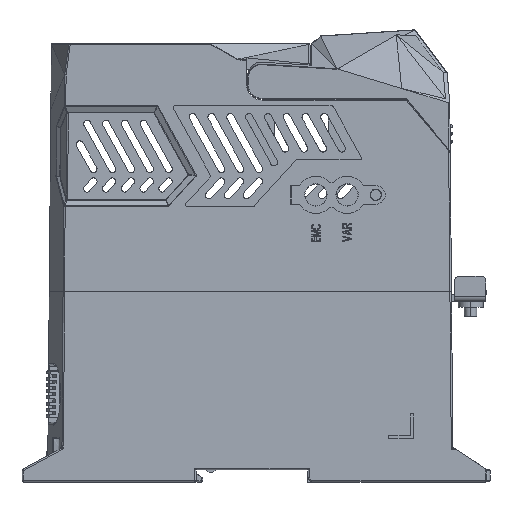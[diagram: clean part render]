
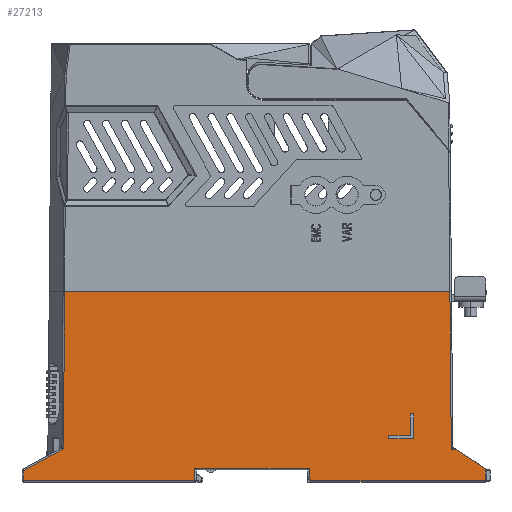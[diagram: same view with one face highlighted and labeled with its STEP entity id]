
A CAD part, left-side view. The second image highlights one B-rep face of the part: STEP entity #27213.
In plain terms, the highlighted planar face has unit normal (1, 0, -0.009).
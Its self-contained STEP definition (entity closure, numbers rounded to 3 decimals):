
#21707=VECTOR('Line Direction',#21706,1.) ;
#27038=VECTOR('Line Direction',#27037,1.) ;
#27045=VECTOR('Line Direction',#27044,1.) ;
#27052=VECTOR('Line Direction',#27051,1.) ;
#27059=VECTOR('Line Direction',#27058,1.) ;
#27066=VECTOR('Line Direction',#27065,1.) ;
#27073=VECTOR('Line Direction',#27072,1.) ;
#27080=VECTOR('Line Direction',#27079,1.) ;
#27087=VECTOR('Line Direction',#27086,1.) ;
#27094=VECTOR('Line Direction',#27093,1.) ;
#27101=VECTOR('Line Direction',#27100,1.) ;
#27108=VECTOR('Line Direction',#27107,1.) ;
#27115=VECTOR('Line Direction',#27114,1.) ;
#27135=VECTOR('Line Direction',#27134,1.) ;
#27142=VECTOR('Line Direction',#27141,1.) ;
#27165=VECTOR('Line Direction',#27164,1.) ;
#27174=VECTOR('Line Direction',#27173,1.) ;
#27181=VECTOR('Line Direction',#27180,1.) ;
#27188=VECTOR('Line Direction',#27187,1.) ;
#27195=VECTOR('Line Direction',#27194,1.) ;
#27202=VECTOR('Line Direction',#27201,1.) ;
#21706=DIRECTION('Vector Direction',(0.,1.,0.)) ;
#27031=DIRECTION('Axis2P3D Direction',(-1.,0.,0.009)) ;
#27032=DIRECTION('Axis2P3D XDirection',(0.,-1.,0.)) ;
#27037=DIRECTION('Vector Direction',(-0.009,-0.009,-1.)) ;
#27044=DIRECTION('Vector Direction',(0.,-1.,0.)) ;
#27051=DIRECTION('Vector Direction',(0.005,0.835,0.55)) ;
#27058=DIRECTION('Vector Direction',(0.009,-0.009,1.)) ;
#27065=DIRECTION('Vector Direction',(0.,-1.,0.)) ;
#27072=DIRECTION('Vector Direction',(-0.006,-0.707,-0.707)) ;
#27079=DIRECTION('Vector Direction',(-0.009,0.,-1.)) ;
#27086=DIRECTION('Vector Direction',(0.,-1.,0.)) ;
#27093=DIRECTION('Vector Direction',(0.009,0.,1.)) ;
#27100=DIRECTION('Vector Direction',(0.,1.,0.)) ;
#27107=DIRECTION('Vector Direction',(0.009,0.,1.)) ;
#27114=DIRECTION('Vector Direction',(0.004,-0.879,0.477)) ;
#27134=DIRECTION('Vector Direction',(0.009,-0.007,1.)) ;
#27141=DIRECTION('Vector Direction',(-0.009,0.007,-1.)) ;
#27164=DIRECTION('Vector Direction',(0.,-1.,0.)) ;
#27173=DIRECTION('Vector Direction',(0.009,0.,1.)) ;
#27180=DIRECTION('Vector Direction',(0.,-1.,0.)) ;
#27187=DIRECTION('Vector Direction',(0.009,0.,1.)) ;
#27194=DIRECTION('Vector Direction',(0.,1.,0.)) ;
#27201=DIRECTION('Vector Direction',(-0.009,0.,-1.)) ;
#21702=CARTESIAN_POINT('Vertex',(-129.88,32.243,-105.477)) ;
#21705=CARTESIAN_POINT('Line Origine',(-129.88,94.005,-105.477)) ;
#21709=CARTESIAN_POINT('Vertex',(-129.88,155.767,-105.477)) ;
#27030=CARTESIAN_POINT('Axis2P3D Location',(-130.365,164.946,-160.977)) ;
#27036=CARTESIAN_POINT('Line Origine',(-130.101,32.022,-130.727)) ;
#27040=CARTESIAN_POINT('Vertex',(-130.321,31.802,-155.978)) ;
#27043=CARTESIAN_POINT('Line Origine',(-130.321,31.046,-155.978)) ;
#27047=CARTESIAN_POINT('Vertex',(-130.321,30.289,-155.978)) ;
#27050=CARTESIAN_POINT('Line Origine',(-130.348,25.58,-159.075)) ;
#27054=CARTESIAN_POINT('Vertex',(-130.375,20.87,-162.173)) ;
#27057=CARTESIAN_POINT('Line Origine',(-130.392,20.887,-164.073)) ;
#27061=CARTESIAN_POINT('Vertex',(-130.408,20.903,-165.973)) ;
#27064=CARTESIAN_POINT('Line Origine',(-130.408,48.693,-165.973)) ;
#27068=CARTESIAN_POINT('Vertex',(-130.408,76.483,-165.973)) ;
#27071=CARTESIAN_POINT('Line Origine',(-130.404,76.937,-165.519)) ;
#27075=CARTESIAN_POINT('Vertex',(-130.4,77.39,-165.066)) ;
#27078=CARTESIAN_POINT('Line Origine',(-130.387,77.39,-163.569)) ;
#27082=CARTESIAN_POINT('Vertex',(-130.374,77.39,-162.073)) ;
#27085=CARTESIAN_POINT('Line Origine',(-130.374,95.69,-162.073)) ;
#27089=CARTESIAN_POINT('Vertex',(-130.374,113.99,-162.073)) ;
#27092=CARTESIAN_POINT('Line Origine',(-130.391,113.99,-164.023)) ;
#27096=CARTESIAN_POINT('Vertex',(-130.408,113.99,-165.973)) ;
#27099=CARTESIAN_POINT('Line Origine',(-130.408,141.449,-165.973)) ;
#27103=CARTESIAN_POINT('Vertex',(-130.408,168.908,-165.973)) ;
#27106=CARTESIAN_POINT('Line Origine',(-130.394,168.908,-164.374)) ;
#27110=CARTESIAN_POINT('Vertex',(-130.38,168.908,-162.775)) ;
#27113=CARTESIAN_POINT('Line Origine',(-130.351,162.785,-159.451)) ;
#27117=CARTESIAN_POINT('Vertex',(-130.322,156.661,-156.128)) ;
#27121=CARTESIAN_POINT('Control Point',(-130.322,156.661,-156.128)) ;
#27122=CARTESIAN_POINT('Control Point',(-130.322,156.543,-156.064)) ;
#27123=CARTESIAN_POINT('Control Point',(-130.321,156.436,-155.982)) ;
#27124=CARTESIAN_POINT('Control Point',(-130.32,156.342,-155.883)) ;
#27125=CARTESIAN_POINT('Control Point',(-130.319,156.215,-155.698)) ;
#27126=CARTESIAN_POINT('Control Point',(-130.317,156.143,-155.488)) ;
#27127=CARTESIAN_POINT('Control Point',(-130.316,156.123,-155.402)) ;
#27128=CARTESIAN_POINT('Control Point',(-130.315,156.112,-155.315)) ;
#27129=CARTESIAN_POINT('Control Point',(-130.314,156.112,-155.227)) ;
#27130=CARTESIAN_POINT('Vertex',(-130.314,156.112,-155.227)) ;
#27133=CARTESIAN_POINT('Line Origine',(-130.312,156.11,-154.959)) ;
#27137=CARTESIAN_POINT('Vertex',(-130.31,156.108,-154.69)) ;
#27140=CARTESIAN_POINT('Line Origine',(-130.095,155.937,-130.084)) ;
#27163=CARTESIAN_POINT('Line Origine',(-130.222,44.39,-144.599)) ;
#27167=CARTESIAN_POINT('Vertex',(-130.222,44.89,-144.599)) ;
#27169=CARTESIAN_POINT('Vertex',(-130.222,43.89,-144.599)) ;
#27172=CARTESIAN_POINT('Line Origine',(-130.252,44.89,-148.099)) ;
#27176=CARTESIAN_POINT('Vertex',(-130.283,44.89,-151.599)) ;
#27179=CARTESIAN_POINT('Line Origine',(-130.283,48.39,-151.599)) ;
#27183=CARTESIAN_POINT('Vertex',(-130.283,51.89,-151.599)) ;
#27186=CARTESIAN_POINT('Line Origine',(-130.287,51.89,-152.099)) ;
#27190=CARTESIAN_POINT('Vertex',(-130.292,51.89,-152.599)) ;
#27193=CARTESIAN_POINT('Line Origine',(-130.292,47.89,-152.599)) ;
#27197=CARTESIAN_POINT('Vertex',(-130.292,43.89,-152.599)) ;
#27200=CARTESIAN_POINT('Line Origine',(-130.257,43.89,-148.599)) ;
#27033=AXIS2_PLACEMENT_3D('Plane Axis2P3D',#27030,#27031,#27032) ;
#27212=FACE_BOUND('',#27205,.T.) ;
#21711=EDGE_CURVE('',#21703,#21710,#21708,.T.) ;
#27042=EDGE_CURVE('',#27041,#21703,#27039,.F.) ;
#27049=EDGE_CURVE('',#27041,#27048,#27046,.T.) ;
#27056=EDGE_CURVE('',#27055,#27048,#27053,.T.) ;
#27063=EDGE_CURVE('',#27062,#27055,#27060,.T.) ;
#27070=EDGE_CURVE('',#27069,#27062,#27067,.T.) ;
#27077=EDGE_CURVE('',#27076,#27069,#27074,.T.) ;
#27084=EDGE_CURVE('',#27083,#27076,#27081,.T.) ;
#27091=EDGE_CURVE('',#27090,#27083,#27088,.T.) ;
#27098=EDGE_CURVE('',#27097,#27090,#27095,.T.) ;
#27105=EDGE_CURVE('',#27097,#27104,#27102,.T.) ;
#27112=EDGE_CURVE('',#27104,#27111,#27109,.T.) ;
#27119=EDGE_CURVE('',#27111,#27118,#27116,.T.) ;
#27132=EDGE_CURVE('',#27118,#27131,#27120,.T.) ;
#27139=EDGE_CURVE('',#27131,#27138,#27136,.T.) ;
#27144=EDGE_CURVE('',#21710,#27138,#27143,.T.) ;
#27171=EDGE_CURVE('',#27168,#27170,#27166,.T.) ;
#27178=EDGE_CURVE('',#27177,#27168,#27175,.T.) ;
#27185=EDGE_CURVE('',#27184,#27177,#27182,.T.) ;
#27192=EDGE_CURVE('',#27191,#27184,#27189,.T.) ;
#27199=EDGE_CURVE('',#27198,#27191,#27196,.T.) ;
#27204=EDGE_CURVE('',#27170,#27198,#27203,.T.) ;
#27034=PLANE('',#27033) ;
#27146=ORIENTED_EDGE('',*,*,#27042,.F.) ;
#27147=ORIENTED_EDGE('',*,*,#27049,.T.) ;
#27148=ORIENTED_EDGE('',*,*,#27056,.F.) ;
#27149=ORIENTED_EDGE('',*,*,#27063,.F.) ;
#27150=ORIENTED_EDGE('',*,*,#27070,.F.) ;
#27151=ORIENTED_EDGE('',*,*,#27077,.F.) ;
#27152=ORIENTED_EDGE('',*,*,#27084,.F.) ;
#27153=ORIENTED_EDGE('',*,*,#27091,.F.) ;
#27154=ORIENTED_EDGE('',*,*,#27098,.F.) ;
#27155=ORIENTED_EDGE('',*,*,#27105,.T.) ;
#27156=ORIENTED_EDGE('',*,*,#27112,.T.) ;
#27157=ORIENTED_EDGE('',*,*,#27119,.T.) ;
#27158=ORIENTED_EDGE('',*,*,#27132,.T.) ;
#27159=ORIENTED_EDGE('',*,*,#27139,.T.) ;
#27160=ORIENTED_EDGE('',*,*,#27144,.F.) ;
#27161=ORIENTED_EDGE('',*,*,#21711,.F.) ;
#27206=ORIENTED_EDGE('',*,*,#27171,.F.) ;
#27207=ORIENTED_EDGE('',*,*,#27178,.F.) ;
#27208=ORIENTED_EDGE('',*,*,#27185,.F.) ;
#27209=ORIENTED_EDGE('',*,*,#27192,.F.) ;
#27210=ORIENTED_EDGE('',*,*,#27199,.F.) ;
#27211=ORIENTED_EDGE('',*,*,#27204,.F.) ;
#21708=LINE('Line',#21705,#21707) ;
#27039=LINE('Line',#27036,#27038) ;
#27046=LINE('Line',#27043,#27045) ;
#27053=LINE('Line',#27050,#27052) ;
#27060=LINE('Line',#27057,#27059) ;
#27067=LINE('Line',#27064,#27066) ;
#27074=LINE('Line',#27071,#27073) ;
#27081=LINE('Line',#27078,#27080) ;
#27088=LINE('Line',#27085,#27087) ;
#27095=LINE('Line',#27092,#27094) ;
#27102=LINE('Line',#27099,#27101) ;
#27109=LINE('Line',#27106,#27108) ;
#27116=LINE('Line',#27113,#27115) ;
#27136=LINE('Line',#27133,#27135) ;
#27143=LINE('Line',#27140,#27142) ;
#27166=LINE('Line',#27163,#27165) ;
#27175=LINE('Line',#27172,#27174) ;
#27182=LINE('Line',#27179,#27181) ;
#27189=LINE('Line',#27186,#27188) ;
#27196=LINE('Line',#27193,#27195) ;
#27203=LINE('Line',#27200,#27202) ;
#27213=ADVANCED_FACE('Closed Shell',(#27162,#27212),#27034,.F.) ;
#21703=VERTEX_POINT('',#21702) ;
#21710=VERTEX_POINT('',#21709) ;
#27041=VERTEX_POINT('',#27040) ;
#27048=VERTEX_POINT('',#27047) ;
#27055=VERTEX_POINT('',#27054) ;
#27062=VERTEX_POINT('',#27061) ;
#27069=VERTEX_POINT('',#27068) ;
#27076=VERTEX_POINT('',#27075) ;
#27083=VERTEX_POINT('',#27082) ;
#27090=VERTEX_POINT('',#27089) ;
#27097=VERTEX_POINT('',#27096) ;
#27104=VERTEX_POINT('',#27103) ;
#27111=VERTEX_POINT('',#27110) ;
#27118=VERTEX_POINT('',#27117) ;
#27131=VERTEX_POINT('',#27130) ;
#27138=VERTEX_POINT('',#27137) ;
#27168=VERTEX_POINT('',#27167) ;
#27170=VERTEX_POINT('',#27169) ;
#27177=VERTEX_POINT('',#27176) ;
#27184=VERTEX_POINT('',#27183) ;
#27191=VERTEX_POINT('',#27190) ;
#27198=VERTEX_POINT('',#27197) ;
#27120=B_SPLINE_CURVE_WITH_KNOTS('',5,(#27121,#27122,#27123,#27124,#27125,#27126,#27127,#27128,#27129),.UNSPECIFIED.,.F.,.U.,(6,3,6),(0.,0.945,1.57),.UNSPECIFIED.) ;
#27145=EDGE_LOOP('',(#27146,#27147,#27148,#27149,#27150,#27151,#27152,#27153,#27154,#27155,#27156,#27157,#27158,#27159,#27160,#27161)) ;
#27205=EDGE_LOOP('',(#27206,#27207,#27208,#27209,#27210,#27211)) ;
#27162=FACE_OUTER_BOUND('',#27145,.T.) ;
